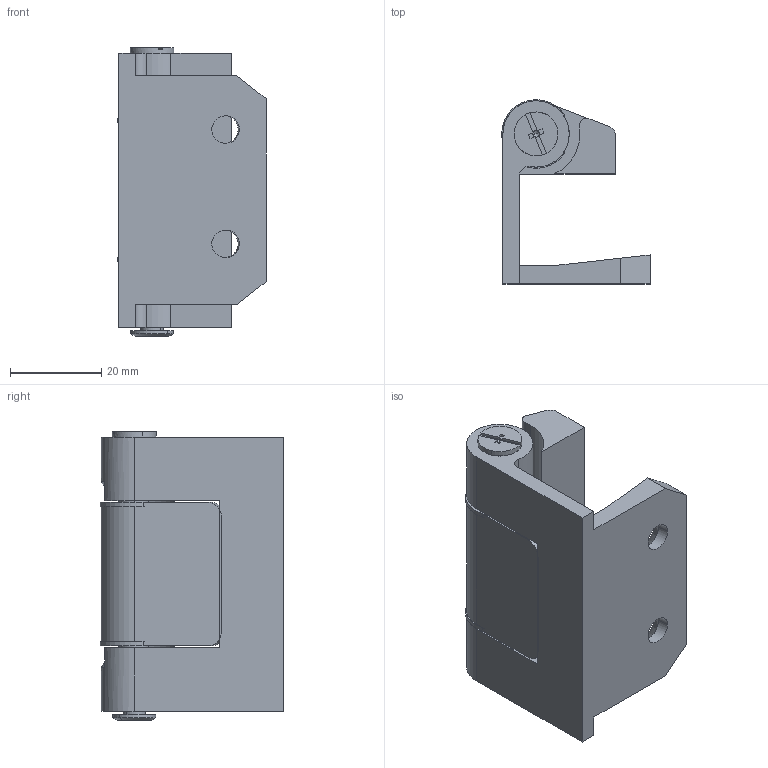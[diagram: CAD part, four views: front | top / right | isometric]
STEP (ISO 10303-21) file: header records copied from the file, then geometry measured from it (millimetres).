
FILE_DESCRIPTION (( 'STEP AP214' ), '1' );
FILE_NAME ('HL012.STEP', '2023-06-28T03:02:38', ( 'Windows 蚚誧' ), ( '' ), 'SwSTEP 2.0', 'SolidWorks 2019', '' );
FILE_SCHEMA (( 'AUTOMOTIVE_DESIGN' ));
Length unit declared in the file: millimetre
Products named in the file (6): HL012B SLDPRT; HL012; HL012D SLDPRT; HL012 SLDPRT; HL012C SLDPRT; HL012A SLDPRT
Assembly tree (6 placements, depth 2):
  HL012
    HL012 SLDPRT
    HL012A SLDPRT
    HL012C SLDPRT  x2
    HL012B SLDPRT
    HL012D SLDPRT
Bounding box: 32.42 x 40.22 x 63.2 mm (x, y, z)
Volume: 28845.5 mm3; surface area: 16537.1 mm2
Topology: 6 solids, 6 shells, 161 faces, 411 edges, 264 vertices
Faces by surface type: plane 73, cylinder 68, cone 18, torus 2
Entity records: 4920 total; most frequent: DIRECTION 834, CARTESIAN_POINT 829, ORIENTED_EDGE 764, EDGE_CURVE 382, AXIS2_PLACEMENT_3D 303, VERTEX_POINT 250, LINE 228, VECTOR 228
